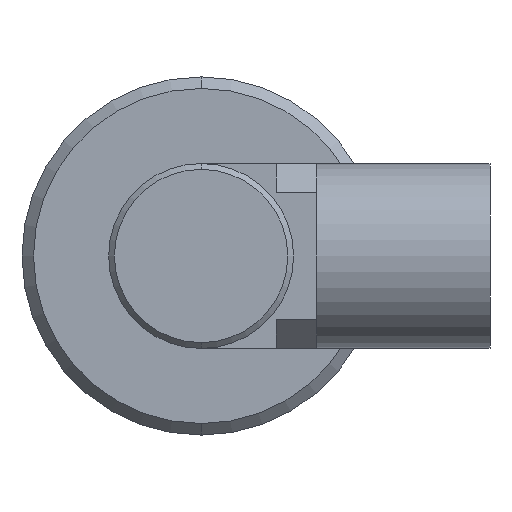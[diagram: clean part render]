
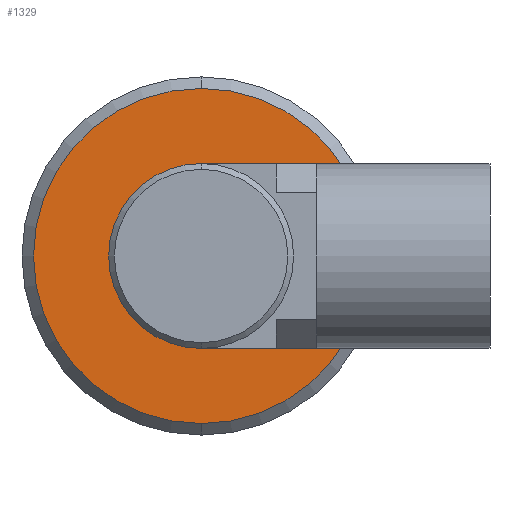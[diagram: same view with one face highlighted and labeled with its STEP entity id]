
A CAD part, left-side view. The second image highlights one B-rep face of the part: STEP entity #1329.
In plain terms, the highlighted planar face has unit normal (-1, 0, 0).
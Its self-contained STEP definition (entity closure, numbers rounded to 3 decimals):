
#100 = EDGE_CURVE ( 'NONE', #923, #933, #1090, .T. ) ;
#122 = AXIS2_PLACEMENT_3D ( 'NONE', #1176, #283, #926 ) ;
#126 = DIRECTION ( 'NONE',  ( 0., 0., -1. ) ) ;
#127 = ORIENTED_EDGE ( 'NONE', *, *, #1314, .T. ) ;
#151 = ORIENTED_EDGE ( 'NONE', *, *, #315, .T. ) ;
#168 = AXIS2_PLACEMENT_3D ( 'NONE', #341, #1242, #484 ) ;
#205 = AXIS2_PLACEMENT_3D ( 'NONE', #607, #1511, #734 ) ;
#212 = AXIS2_PLACEMENT_3D ( 'NONE', #381, #900, #126 ) ;
#234 = CIRCLE ( 'NONE', #205, 14.5 ) ;
#246 = EDGE_LOOP ( 'NONE', ( #151, #127 ) ) ;
#283 = DIRECTION ( 'NONE',  ( -1., 0., 0. ) ) ;
#315 = EDGE_CURVE ( 'NONE', #1332, #1609, #234, .T. ) ;
#326 = CIRCLE ( 'NONE', #168, 8. ) ;
#341 = CARTESIAN_POINT ( 'NONE',  ( 154.884, 0., 0. ) ) ;
#381 = CARTESIAN_POINT ( 'NONE',  ( 154.884, 14.5, 0. ) ) ;
#400 = FACE_OUTER_BOUND ( 'NONE', #246, .T. ) ;
#405 = CARTESIAN_POINT ( 'NONE',  ( 154.884, 0., 8. ) ) ;
#439 = CIRCLE ( 'NONE', #1619, 14.5 ) ;
#463 = EDGE_CURVE ( 'NONE', #933, #923, #326, .T. ) ;
#484 = DIRECTION ( 'NONE',  ( 0., 0., 1. ) ) ;
#517 = CARTESIAN_POINT ( 'NONE',  ( 154.884, 0., 0. ) ) ;
#607 = CARTESIAN_POINT ( 'NONE',  ( 154.884, 0., 0. ) ) ;
#637 = DIRECTION ( 'NONE',  ( 0., 0., 1. ) ) ;
#734 = DIRECTION ( 'NONE',  ( 0., 0., 1. ) ) ;
#767 = PLANE ( 'NONE',  #212 ) ;
#900 = DIRECTION ( 'NONE',  ( 1., 0., 0. ) ) ;
#916 = CARTESIAN_POINT ( 'NONE',  ( 154.884, 0., -8. ) ) ;
#923 = VERTEX_POINT ( 'NONE', #916 ) ;
#926 = DIRECTION ( 'NONE',  ( 0., 0., 1. ) ) ;
#930 = ORIENTED_EDGE ( 'NONE', *, *, #463, .F. ) ;
#933 = VERTEX_POINT ( 'NONE', #405 ) ;
#969 = EDGE_LOOP ( 'NONE', ( #930, #1580 ) ) ;
#1070 = FACE_BOUND ( 'NONE', #969, .T. ) ;
#1090 = CIRCLE ( 'NONE', #122, 8. ) ;
#1176 = CARTESIAN_POINT ( 'NONE',  ( 154.884, 0., 0. ) ) ;
#1242 = DIRECTION ( 'NONE',  ( -1., 0., 0. ) ) ;
#1314 = EDGE_CURVE ( 'NONE', #1609, #1332, #439, .T. ) ;
#1329 = ADVANCED_FACE ( 'NONE', ( #1070, #400 ), #767, .F. ) ;
#1332 = VERTEX_POINT ( 'NONE', #1545 ) ;
#1399 = DIRECTION ( 'NONE',  ( -1., 0., 0. ) ) ;
#1511 = DIRECTION ( 'NONE',  ( -1., 0., 0. ) ) ;
#1545 = CARTESIAN_POINT ( 'NONE',  ( 154.884, 0., -14.5 ) ) ;
#1580 = ORIENTED_EDGE ( 'NONE', *, *, #100, .F. ) ;
#1609 = VERTEX_POINT ( 'NONE', #1662 ) ;
#1619 = AXIS2_PLACEMENT_3D ( 'NONE', #517, #1399, #637 ) ;
#1662 = CARTESIAN_POINT ( 'NONE',  ( 154.884, 0., 14.5 ) ) ;
